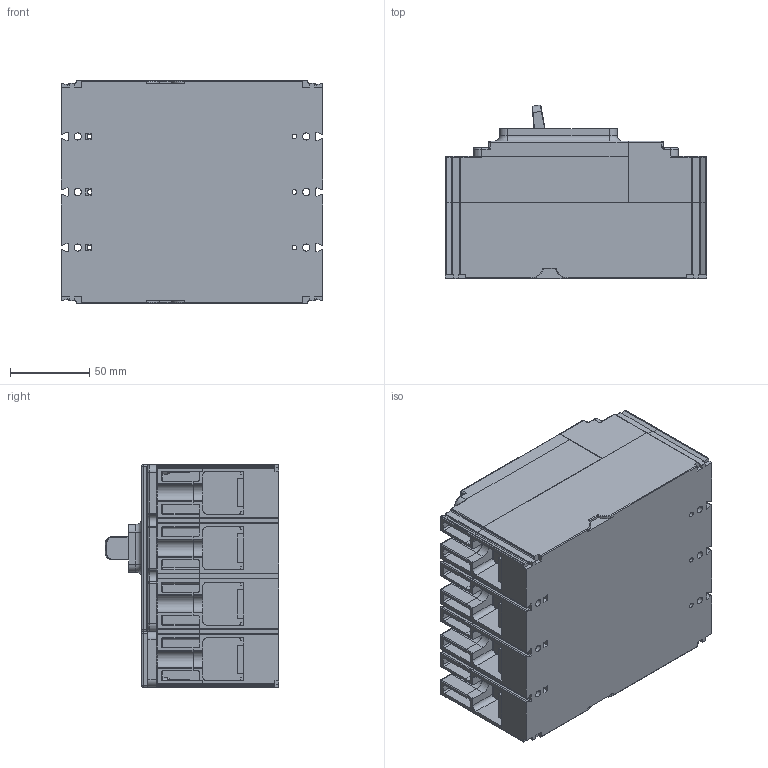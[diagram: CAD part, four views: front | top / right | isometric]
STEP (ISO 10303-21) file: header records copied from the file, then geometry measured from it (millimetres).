
FILE_DESCRIPTION((''),'2;1');
FILE_NAME('U2_4P_RSTN_TOTAL_ASSY_ASM_ASM','2016-09-08T',('HHI'),(''),'PRO/ENGINEER BY PARAMETRIC TECHNOLOGY CORPORATION, 2012453','PRO/ENGINEER BY PARAMETRIC TECHNOLOGY CORPORATION, 2012453','');
FILE_SCHEMA(('CONFIG_CONTROL_DESIGN'));
Products named in the file (11): U2_4P_BASE; U2_4P_RSTN_MAIN_COVER; U2_4P_RSTN_TRIP_COVER; U2_FRONT_COVER; U2_N_FRONT_COVER; U2_TRIP_BUTTON; UP2_HANDLE; U2_MDO_HANDLE_ASSY_ASM_ASM; U2_MDO_FIXED_ASSY_AF0_ASM_ASM; U2_MDO_MECHANISM_ASSY_AF0_ASM_ASM; U2_4P_RSTN_TOTAL_ASSY_ASM_ASM
Assembly tree (10 placements, depth 5):
  U2_4P_RSTN_TOTAL_ASSY_ASM_ASM
    U2_4P_BASE
    U2_4P_RSTN_MAIN_COVER
    U2_4P_RSTN_TRIP_COVER
    U2_FRONT_COVER
    U2_N_FRONT_COVER
    U2_TRIP_BUTTON
    U2_MDO_MECHANISM_ASSY_AF0_ASM_ASM
      U2_MDO_FIXED_ASSY_AF0_ASM_ASM
        U2_MDO_HANDLE_ASSY_ASM_ASM
          UP2_HANDLE
Bounding box: 165 x 109.26 x 140 mm (x, y, z)
Volume: 1756628.5 mm3; surface area: 257561.9 mm2
Topology: 6 solids, 15 shells, 2367 faces, 6500 edges, 4125 vertices
Faces by surface type: plane 1067, cylinder 839, torus 159, sphere 88, cone 74, bspline 70, extrusion 70
Entity records: 78552 total; most frequent: CARTESIAN_POINT 17718, DIRECTION 12810, ORIENTED_EDGE 12800, EDGE_CURVE 6400, AXIS2_PLACEMENT_3D 4492, VERTEX_POINT 4122, VECTOR 3826, LINE 3756
